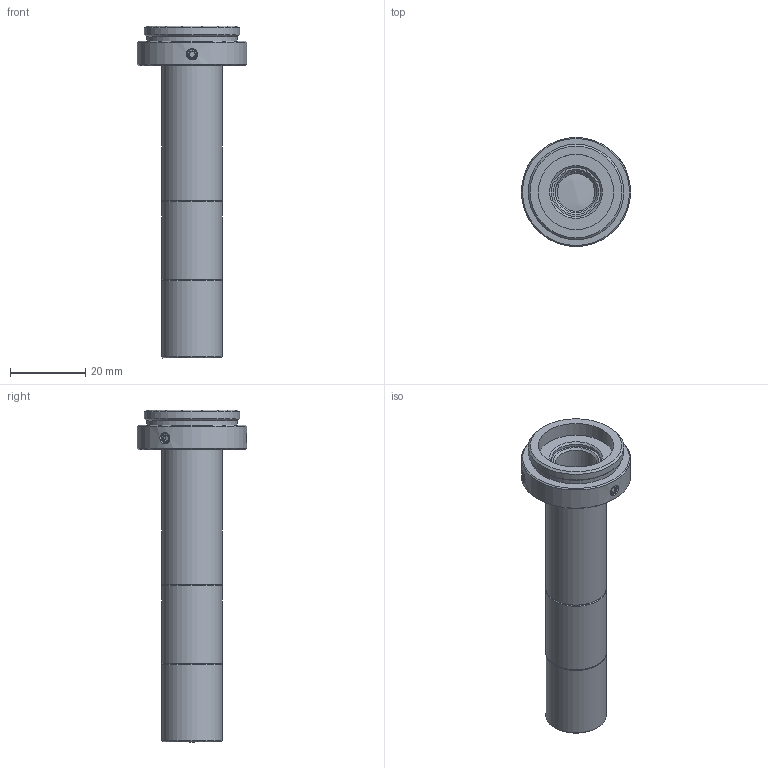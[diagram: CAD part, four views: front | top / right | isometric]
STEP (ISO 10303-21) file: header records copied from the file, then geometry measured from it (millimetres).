
FILE_DESCRIPTION(('STEP AP214'),'1');
FILE_NAME('RTK-3-65.stp','2026-03-16T05:56:59',(' '),(' '),'Spatial InterOp 3D',' ',' ');
FILE_SCHEMA(('AUTOMOTIVE_DESIGN { 1 0 10303 214 1 1 1 1 }'));
Length unit declared in the file: metre
Products named in the file (2): RTK-3-65; Component1
Assembly tree (1 placements, depth 2):
  RTK-3-65
    Component1
Bounding box: 29 x 29 x 88.13 mm (x, y, z)
Volume: 10468.5 mm3; surface area: 10359 mm2
Topology: 1 solids, 1 shells, 129 faces, 300 edges, 197 vertices
Faces by surface type: plane 50, cone 48, cylinder 26, bspline 3, sphere 2
Full cylindrical faces by diameter (mm): 2.5 x3, 10 x1, 11 x1, 12 x2, 12.7 x1, 13 x2, 13.4 x1, 13.5 x2, 13.6 x1, 14 x1, 14.2 x1, 14.7 x1, 16 x3, 20 x1, 24.12 x1, 25.32 x1, 29 x1
Entity records: 4640 total; most frequent: CARTESIAN_POINT 966, DIRECTION 540, ORIENTED_EDGE 450, AXIS2_PLACEMENT_3D 226, EDGE_CURVE 225, EDGE_LOOP 206, VERTEX_POINT 177, FACE_OUTER_BOUND 155
